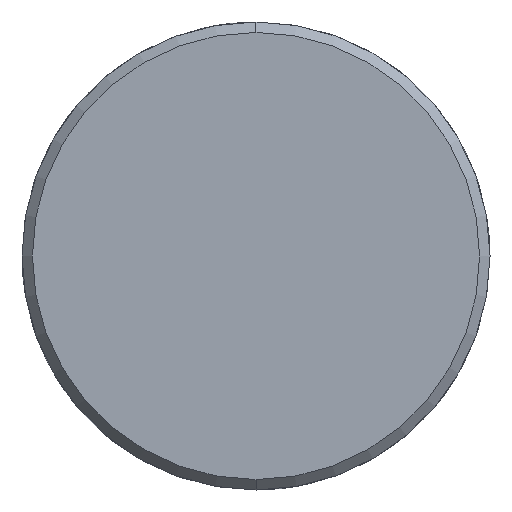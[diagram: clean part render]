
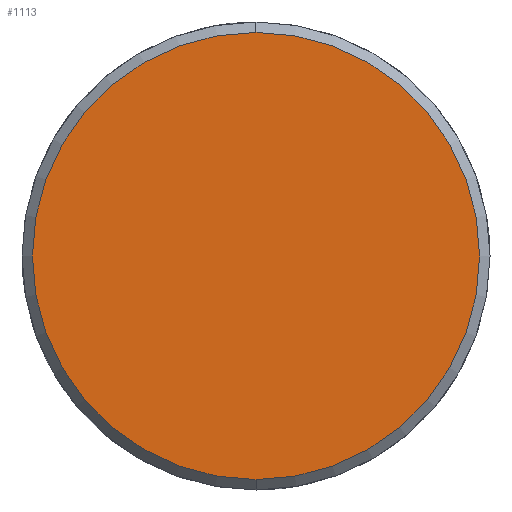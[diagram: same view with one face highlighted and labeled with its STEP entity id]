
A CAD part, left-side view. The second image highlights one B-rep face of the part: STEP entity #1113.
In plain terms, the highlighted planar face has unit normal (-1, 0, 0).
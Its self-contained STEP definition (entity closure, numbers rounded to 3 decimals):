
#1045=CARTESIAN_POINT('Vertex',(-7.,0.,-21.5)) ;
#1048=CARTESIAN_POINT('Axis2P3D Location',(-7.,0.,0.)) ;
#1052=CARTESIAN_POINT('Vertex',(-7.,21.5,0.)) ;
#1055=CARTESIAN_POINT('Axis2P3D Location',(-7.,0.,0.)) ;
#1059=CARTESIAN_POINT('Vertex',(-7.,0.,21.5)) ;
#1081=CARTESIAN_POINT('Axis2P3D Location',(-7.,0.,0.)) ;
#1085=CARTESIAN_POINT('Vertex',(-7.,-21.5,0.)) ;
#1088=CARTESIAN_POINT('Axis2P3D Location',(-7.,0.,0.)) ;
#1102=CARTESIAN_POINT('Axis2P3D Location',(-7.,0.,0.)) ;
#1049=DIRECTION('Axis2P3D Direction',(1.,0.,-0.)) ;
#1056=DIRECTION('Axis2P3D Direction',(1.,0.,-0.)) ;
#1082=DIRECTION('Axis2P3D Direction',(1.,0.,-0.)) ;
#1089=DIRECTION('Axis2P3D Direction',(1.,0.,-0.)) ;
#1103=DIRECTION('Axis2P3D Direction',(1.,0.,-0.)) ;
#1104=DIRECTION('Axis2P3D XDirection',(-0.,0.,-1.)) ;
#1050=AXIS2_PLACEMENT_3D('Circle Axis2P3D',#1048,#1049,$) ;
#1057=AXIS2_PLACEMENT_3D('Circle Axis2P3D',#1055,#1056,$) ;
#1083=AXIS2_PLACEMENT_3D('Circle Axis2P3D',#1081,#1082,$) ;
#1090=AXIS2_PLACEMENT_3D('Circle Axis2P3D',#1088,#1089,$) ;
#1105=AXIS2_PLACEMENT_3D('Plane Axis2P3D',#1102,#1103,#1104) ;
#1108=ORIENTED_EDGE('',*,*,#1054,.F.) ;
#1109=ORIENTED_EDGE('',*,*,#1092,.F.) ;
#1110=ORIENTED_EDGE('',*,*,#1087,.F.) ;
#1111=ORIENTED_EDGE('',*,*,#1061,.F.) ;
#1113=ADVANCED_FACE('351-32X126X180',(#1112),#1106,.F.) ;
#1051=CIRCLE('generated circle',#1050,21.5) ;
#1058=CIRCLE('generated circle',#1057,21.5) ;
#1084=CIRCLE('generated circle',#1083,21.5) ;
#1091=CIRCLE('generated circle',#1090,21.5) ;
#1054=EDGE_CURVE('',#1046,#1053,#1051,.T.) ;
#1061=EDGE_CURVE('',#1053,#1060,#1058,.T.) ;
#1087=EDGE_CURVE('',#1060,#1086,#1084,.T.) ;
#1092=EDGE_CURVE('',#1086,#1046,#1091,.T.) ;
#1107=EDGE_LOOP('',(#1108,#1109,#1110,#1111)) ;
#1112=FACE_OUTER_BOUND('',#1107,.T.) ;
#1106=PLANE('Plane',#1105) ;
#1046=VERTEX_POINT('',#1045) ;
#1053=VERTEX_POINT('',#1052) ;
#1060=VERTEX_POINT('',#1059) ;
#1086=VERTEX_POINT('',#1085) ;
